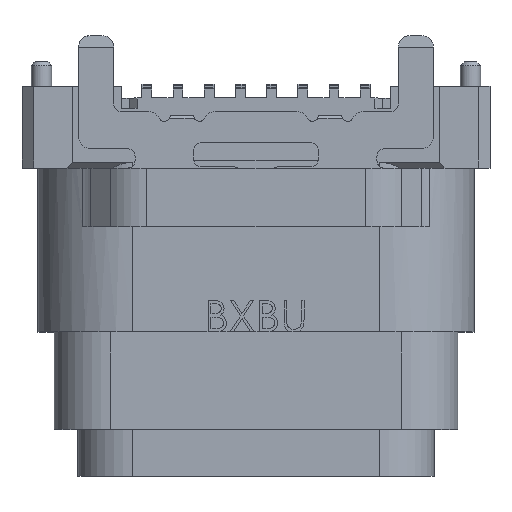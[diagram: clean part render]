
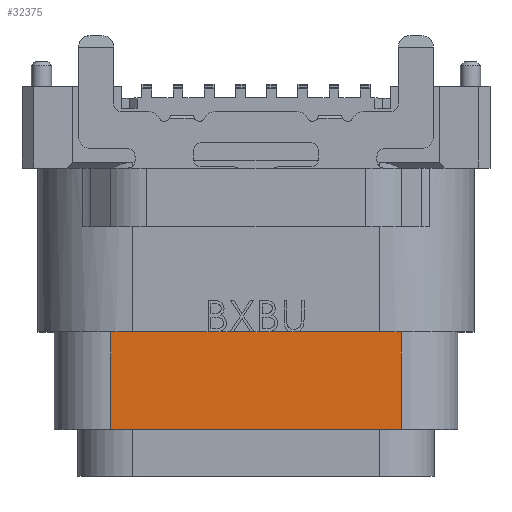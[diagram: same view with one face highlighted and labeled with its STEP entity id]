
A CAD part, top view. The second image highlights one B-rep face of the part: STEP entity #32375.
In plain terms, the highlighted planar face has unit normal (0, 0, 1).
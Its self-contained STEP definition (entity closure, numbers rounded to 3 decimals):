
#339 = FACE_OUTER_BOUND ( 'NONE', #35182, .T. ) ;
#4001 = CARTESIAN_POINT ( 'NONE',  ( 3.72, 0.55, 2.28 ) ) ;
#4693 = PLANE ( 'NONE',  #22683 ) ;
#5090 = EDGE_CURVE ( 'NONE', #31543, #7230, #22567, .T. ) ;
#7230 = VERTEX_POINT ( 'NONE', #23874 ) ;
#7353 = VERTEX_POINT ( 'NONE', #42093 ) ;
#10225 = LINE ( 'NONE', #54463, #43668 ) ;
#10826 = VECTOR ( 'NONE', #14172, 1000. ) ;
#13658 = DIRECTION ( 'NONE',  ( 0., 0., -1. ) ) ;
#14172 = DIRECTION ( 'NONE',  ( 0., -1., 0. ) ) ;
#20294 = CARTESIAN_POINT ( 'NONE',  ( 3.72, 3.05, 2.28 ) ) ;
#22567 = LINE ( 'NONE', #53535, #10826 ) ;
#22683 = AXIS2_PLACEMENT_3D ( 'NONE', #36211, #13658, #26677 ) ;
#23226 = CARTESIAN_POINT ( 'NONE',  ( 3.72, 0.55, 2.28 ) ) ;
#23874 = CARTESIAN_POINT ( 'NONE',  ( -3.72, 0.55, 2.28 ) ) ;
#25201 = LINE ( 'NONE', #20294, #25568 ) ;
#25568 = VECTOR ( 'NONE', #29819, 1000. ) ;
#25603 = EDGE_CURVE ( 'NONE', #7353, #31543, #25201, .T. ) ;
#26677 = DIRECTION ( 'NONE',  ( 0., -1., 0. ) ) ;
#29819 = DIRECTION ( 'NONE',  ( -1., 0., 0. ) ) ;
#30382 = ORIENTED_EDGE ( 'NONE', *, *, #5090, .T. ) ;
#31543 = VERTEX_POINT ( 'NONE', #46877 ) ;
#32208 = DIRECTION ( 'NONE',  ( 0., 1., 0. ) ) ;
#32375 = ADVANCED_FACE ( 'NONE', ( #339 ), #4693, .F. ) ;
#35182 = EDGE_LOOP ( 'NONE', ( #35871, #41020, #30382, #35466 ) ) ;
#35466 = ORIENTED_EDGE ( 'NONE', *, *, #56044, .F. ) ;
#35871 = ORIENTED_EDGE ( 'NONE', *, *, #39900, .T. ) ;
#36022 = VERTEX_POINT ( 'NONE', #4001 ) ;
#36211 = CARTESIAN_POINT ( 'NONE',  ( -3.72, 0.55, 2.28 ) ) ;
#39900 = EDGE_CURVE ( 'NONE', #36022, #7353, #10225, .T. ) ;
#40893 = DIRECTION ( 'NONE',  ( -1., 0., 0. ) ) ;
#41020 = ORIENTED_EDGE ( 'NONE', *, *, #25603, .T. ) ;
#42093 = CARTESIAN_POINT ( 'NONE',  ( 3.72, 3.05, 2.28 ) ) ;
#43668 = VECTOR ( 'NONE', #32208, 1000. ) ;
#46877 = CARTESIAN_POINT ( 'NONE',  ( -3.72, 3.05, 2.28 ) ) ;
#51525 = VECTOR ( 'NONE', #40893, 1000. ) ;
#53332 = LINE ( 'NONE', #23226, #51525 ) ;
#53535 = CARTESIAN_POINT ( 'NONE',  ( -3.72, 3.05, 2.28 ) ) ;
#54463 = CARTESIAN_POINT ( 'NONE',  ( 3.72, 0.55, 2.28 ) ) ;
#56044 = EDGE_CURVE ( 'NONE', #36022, #7230, #53332, .T. ) ;
